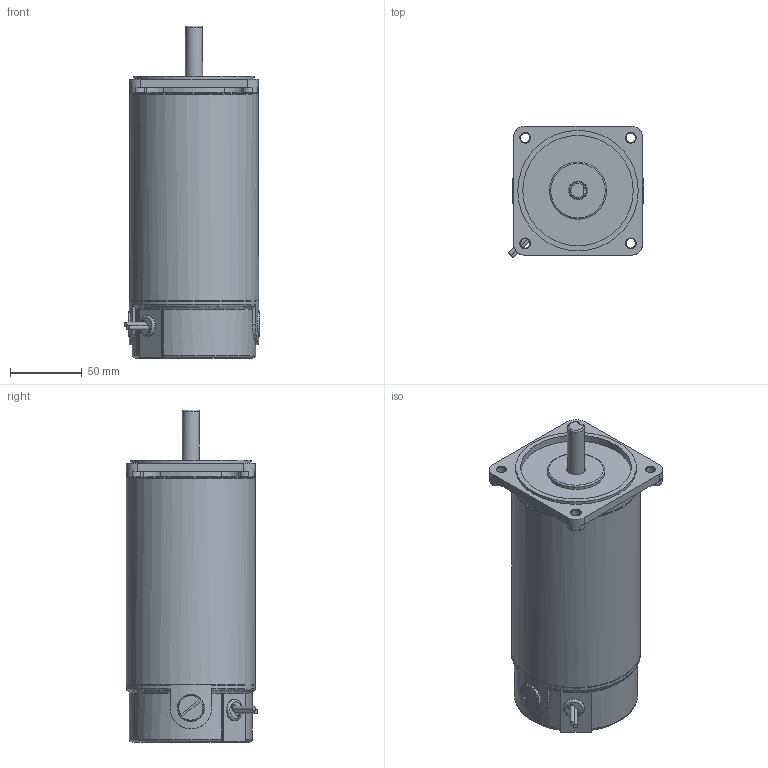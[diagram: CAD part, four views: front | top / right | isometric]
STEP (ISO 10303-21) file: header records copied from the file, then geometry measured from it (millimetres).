
FILE_DESCRIPTION((''),'2;1');
FILE_NAME('\\192.168.5.4\오메가연구소\DC CAD\02 - DC MOTOR 설계 - CAD FILE\DC MOTOR 3D 도면\표준 3D 파일\90각\300W\S9D300-ㅁKK.stp','2014-06-17T08:36:18',('ycw1227'),(''),'Autodesk Inventor 2011','Autodesk Inventor 2011','');
FILE_SCHEMA(('AUTOMOTIVE_DESIGN { 1 0 10303 214 1 1 1 1 }'));
Length unit declared in the file: millimetre
Products named in the file (1): 부품38
Bounding box: 94.79 x 91.63 x 231.5 mm (x, y, z)
Volume: 1228499.5 mm3; surface area: 78175.5 mm2
Topology: 2 solids, 4 shells, 188 faces, 436 edges, 269 vertices
Faces by surface type: plane 76, cylinder 65, torus 31, cone 13, sphere 2, bspline 1
Full cylindrical faces by diameter (mm): 3 x2, 5 x3, 6.5 x4, 12 x1, 13 x1, 14.63 x1, 14.65 x1, 18 x2, 19 x2, 40 x1, 77 x1, 84 x1, 90 x2
Entity records: 5680 total; most frequent: CARTESIAN_POINT 1346, DIRECTION 949, ORIENTED_EDGE 796, EDGE_CURVE 398, AXIS2_PLACEMENT_3D 397, VERTEX_POINT 264, EDGE_LOOP 243, CIRCLE 209
